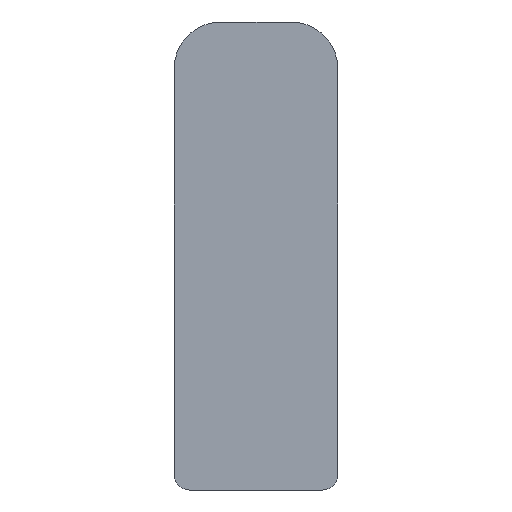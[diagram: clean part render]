
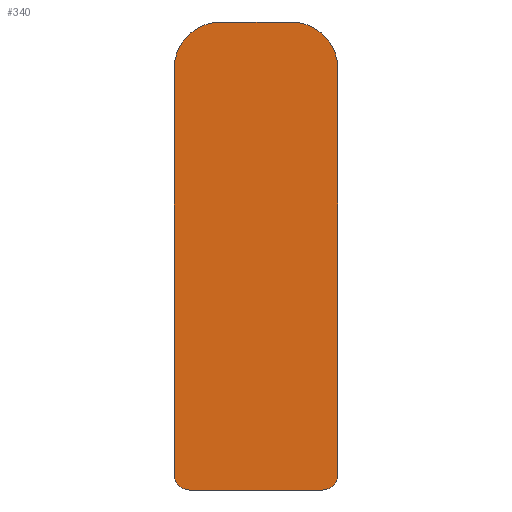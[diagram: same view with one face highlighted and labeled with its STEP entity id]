
A CAD part, left-side view. The second image highlights one B-rep face of the part: STEP entity #340.
In plain terms, the highlighted planar face has unit normal (-1, 0, 0).
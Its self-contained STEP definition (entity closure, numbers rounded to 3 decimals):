
#22 = FACE_OUTER_BOUND ( 'NONE', #156, .T. ) ;
#30 = AXIS2_PLACEMENT_3D ( 'NONE', #211, #210, #208 ) ;
#41 = AXIS2_PLACEMENT_3D ( 'NONE', #277, #276, #275 ) ;
#43 = AXIS2_PLACEMENT_3D ( 'NONE', #298, #297, #295 ) ;
#45 = AXIS2_PLACEMENT_3D ( 'NONE', #317, #316, #315 ) ;
#47 = AXIS2_PLACEMENT_3D ( 'NONE', #219, #215, #213 ) ;
#51 = EDGE_CURVE ( 'NONE', #278, #302, #105, .T. ) ;
#52 = EDGE_CURVE ( 'NONE', #302, #320, #101, .T. ) ;
#56 = EDGE_CURVE ( 'NONE', #320, #307, #182, .T. ) ;
#59 = EDGE_CURVE ( 'NONE', #307, #293, #171, .T. ) ;
#62 = EDGE_CURVE ( 'NONE', #293, #286, #94, .T. ) ;
#65 = EDGE_CURVE ( 'NONE', #286, #329, #78, .T. ) ;
#68 = EDGE_CURVE ( 'NONE', #329, #283, #96, .T. ) ;
#71 = EDGE_CURVE ( 'NONE', #283, #278, #89, .T. ) ;
#78 = CIRCLE ( 'NONE', #43, 1. ) ;
#84 = VECTOR ( 'NONE', #308, 1000. ) ;
#89 = CIRCLE ( 'NONE', #41, 1. ) ;
#94 = LINE ( 'NONE', #309, #84 ) ;
#95 = VECTOR ( 'NONE', #287, 1000. ) ;
#96 = LINE ( 'NONE', #288, #95 ) ;
#101 = CIRCLE ( 'NONE', #47, 3. ) ;
#103 = VECTOR ( 'NONE', #224, 1000. ) ;
#105 = LINE ( 'NONE', #232, #103 ) ;
#142 = ORIENTED_EDGE ( 'NONE', *, *, #52, .T. ) ;
#144 = ORIENTED_EDGE ( 'NONE', *, *, #56, .T. ) ;
#145 = ORIENTED_EDGE ( 'NONE', *, *, #59, .T. ) ;
#146 = ORIENTED_EDGE ( 'NONE', *, *, #62, .T. ) ;
#147 = ORIENTED_EDGE ( 'NONE', *, *, #65, .T. ) ;
#148 = ORIENTED_EDGE ( 'NONE', *, *, #68, .T. ) ;
#149 = ORIENTED_EDGE ( 'NONE', *, *, #71, .T. ) ;
#150 = ORIENTED_EDGE ( 'NONE', *, *, #51, .T. ) ;
#156 = EDGE_LOOP ( 'NONE', ( #142, #144, #145, #146, #147, #148, #149, #150 ) ) ;
#171 = CIRCLE ( 'NONE', #45, 3. ) ;
#181 = VECTOR ( 'NONE', #325, 1000. ) ;
#182 = LINE ( 'NONE', #326, #181 ) ;
#208 = DIRECTION ( 'NONE',  ( 0., 0., 1. ) ) ;
#210 = DIRECTION ( 'NONE',  ( -1., 0., 0. ) ) ;
#211 = CARTESIAN_POINT ( 'NONE',  ( -303.25, -2.25, 27. ) ) ;
#212 = PLANE ( 'NONE',  #30 ) ;
#213 = DIRECTION ( 'NONE',  ( 0., 0., 1. ) ) ;
#215 = DIRECTION ( 'NONE',  ( -1., 0., 0. ) ) ;
#219 = CARTESIAN_POINT ( 'NONE',  ( -303.25, -2.25, 27. ) ) ;
#224 = DIRECTION ( 'NONE',  ( 0., 0., 1. ) ) ;
#232 = CARTESIAN_POINT ( 'NONE',  ( -303.25, -5.25, 1. ) ) ;
#251 = CARTESIAN_POINT ( 'NONE',  ( -303.25, 4.25, 0. ) ) ;
#253 = CARTESIAN_POINT ( 'NONE',  ( -303.25, -2.25, 30. ) ) ;
#255 = CARTESIAN_POINT ( 'NONE',  ( -303.25, 2.25, 30. ) ) ;
#257 = CARTESIAN_POINT ( 'NONE',  ( -303.25, -5.25, 27. ) ) ;
#260 = CARTESIAN_POINT ( 'NONE',  ( -303.25, 5.25, 27. ) ) ;
#262 = CARTESIAN_POINT ( 'NONE',  ( -303.25, 5.25, 1. ) ) ;
#263 = CARTESIAN_POINT ( 'NONE',  ( -303.25, -4.25, 0. ) ) ;
#265 = CARTESIAN_POINT ( 'NONE',  ( -303.25, -5.25, 1. ) ) ;
#275 = DIRECTION ( 'NONE',  ( 0., 0., -1. ) ) ;
#276 = DIRECTION ( 'NONE',  ( -1., 0., 0. ) ) ;
#277 = CARTESIAN_POINT ( 'NONE',  ( -303.25, -4.25, 1. ) ) ;
#278 = VERTEX_POINT ( 'NONE', #265 ) ;
#283 = VERTEX_POINT ( 'NONE', #263 ) ;
#286 = VERTEX_POINT ( 'NONE', #262 ) ;
#287 = DIRECTION ( 'NONE',  ( 0., -1., 0. ) ) ;
#288 = CARTESIAN_POINT ( 'NONE',  ( -303.25, -4.25, 0. ) ) ;
#293 = VERTEX_POINT ( 'NONE', #260 ) ;
#295 = DIRECTION ( 'NONE',  ( 0., 0., -1. ) ) ;
#297 = DIRECTION ( 'NONE',  ( -1., 0., 0. ) ) ;
#298 = CARTESIAN_POINT ( 'NONE',  ( -303.25, 4.25, 1. ) ) ;
#302 = VERTEX_POINT ( 'NONE', #257 ) ;
#307 = VERTEX_POINT ( 'NONE', #255 ) ;
#308 = DIRECTION ( 'NONE',  ( 0., 0., -1. ) ) ;
#309 = CARTESIAN_POINT ( 'NONE',  ( -303.25, 5.25, 1. ) ) ;
#315 = DIRECTION ( 'NONE',  ( 0., 0., -1. ) ) ;
#316 = DIRECTION ( 'NONE',  ( -1., 0., 0. ) ) ;
#317 = CARTESIAN_POINT ( 'NONE',  ( -303.25, 2.25, 27. ) ) ;
#320 = VERTEX_POINT ( 'NONE', #253 ) ;
#325 = DIRECTION ( 'NONE',  ( 0., 1., 0. ) ) ;
#326 = CARTESIAN_POINT ( 'NONE',  ( -303.25, -2.25, 30. ) ) ;
#329 = VERTEX_POINT ( 'NONE', #251 ) ;
#340 = ADVANCED_FACE ( 'NONE', ( #22 ), #212, .T. ) ;
